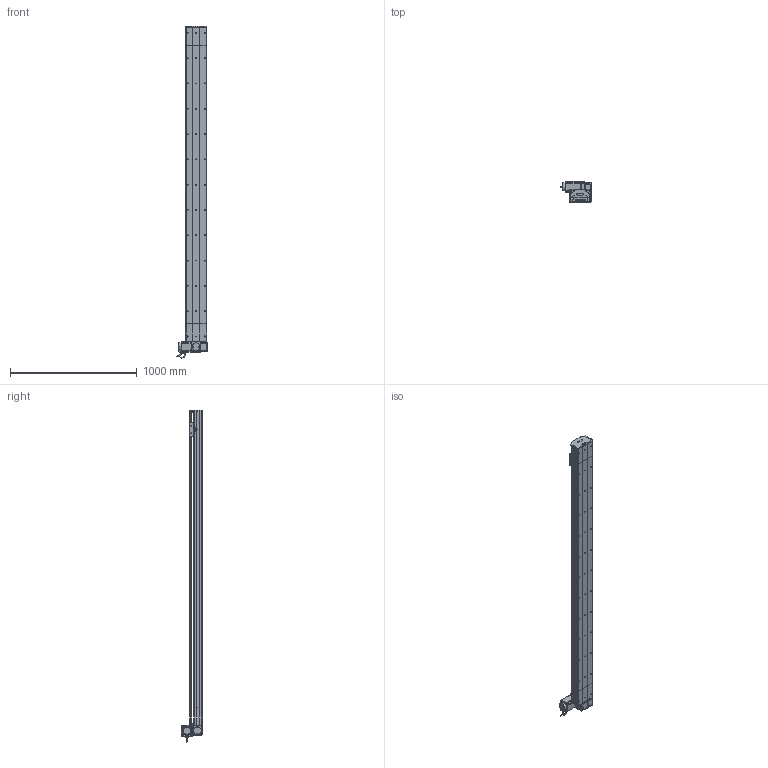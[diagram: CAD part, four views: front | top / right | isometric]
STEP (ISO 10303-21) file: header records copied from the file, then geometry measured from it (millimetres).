
FILE_DESCRIPTION (( 'STEP AP214' ), '1' );
FILE_NAME ('D17 TBN LT S2200.STEP', '2010-06-30T11:34:58', ( 'Christophe Gaillard' ), ( 'SGA' ), 'SwSTEP 2.0', 'SolidWorks 2010', '' );
FILE_SCHEMA (( 'AUTOMOTIVE_DESIGN' ));
Length unit declared in the file: millimetre
Products named in the file (40): Head LT D17B_Default; couvercle D17B head_Default; Arbre+rail head D17B; codeur 90BLDC125-640; corps 90BLDC125A-640; avant 90BLDC125A-640; Moteur motionking 90BLDC125A-640; Renvoi LT_Default; couroie head D17_Default; cache arbre D17_Default; poulie head_Default; vis M5 L5_Default; cache D17_Default; plaque de  bout head D17B LT_Default; Couroie tail D17B_Default; chariot D17 TBN; poulie tail_Default; Rail D17B; course 2200 D17B_Default; plaque de  bout tail D17B_Default; tete d''axe poulie D17B; couvercle D17B_Default; vis M5 L25_Default; vis M5 L8 90°_Default; vis M5 L12_Default; D17 TBN LT S2200; vis M5 L70_Default; Plaque racord D17_Default; vis M5 L16_Default; Vis M5 L16-2_Default; Conecteur_Default; Couroie+ rail D17 Course 2200 ; guide D17; Chariot D17 TBN; corpl head D17 _Default; Conecteur2_Default; Tail D17B_Default; corpl tail D17B_Default; corp D17B 2200_Default; couvercle D17B course L2200_Default
Assembly tree (66 placements, depth 4):
  D17 TBN LT S2200
    Head LT D17B_Default
      couvercle D17B head_Default
      cache arbre D17_Default
      plaque de  bout head D17B LT_Default
      vis M5 L25_Default  x2
      vis M5 L12_Default  x8
      vis M5 L70_Default  x4
      Vis M5 L16-2_Default  x4
      vis M5 L5_Default  x4
      vis M5 L16_Default  x2
      Plaque racord D17_Default
      cache D17_Default  x2
      Renvoi LT_Default
      poulie head_Default
      corpl head D17 _Default
      couroie head D17_Default
      Arbre+rail head D17B
      Moteur motionking 90BLDC125A-640
        Conecteur_Default
        Conecteur2_Default
        codeur 90BLDC125-640
        corps 90BLDC125A-640
        avant 90BLDC125A-640
    Tail D17B_Default
      Couroie tail D17B_Default
      vis M5 L12_Default  x4
      vis M5 L8 90°_Default  x2
      Rail D17B
      vis M5 L25_Default  x2
      corpl tail D17B_Default
      tete d''axe poulie D17B
      plaque de  bout tail D17B_Default
      poulie tail_Default
      couvercle D17B_Default
    course 2200 D17B_Default
      Couroie+ rail D17 Course 2200 
      couvercle D17B course L2200_Default
      corp D17B 2200_Default
    chariot D17 TBN
      guide D17  x2
      Chariot D17 TBN
Bounding box: 245.2 x 166.15 x 2623.95 mm (x, y, z)
Volume: 15211734 mm3; surface area: 4401929.4 mm2
Topology: 89 solids, 89 shells, 2603 faces, 6649 edges, 4286 vertices
Faces by surface type: plane 1533, cylinder 773, bspline 136, cone 80, torus 77, sphere 4
Entity records: 84395 total; most frequent: CARTESIAN_POINT 25135, ORIENTED_EDGE 10470, DIRECTION 9892, EDGE_CURVE 5235, VECTOR 3458, LINE 3458, VERTEX_POINT 3430, AXIS2_PLACEMENT_3D 3217
